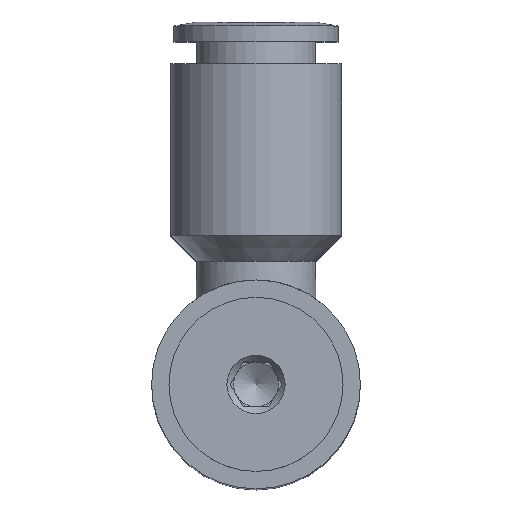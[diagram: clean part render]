
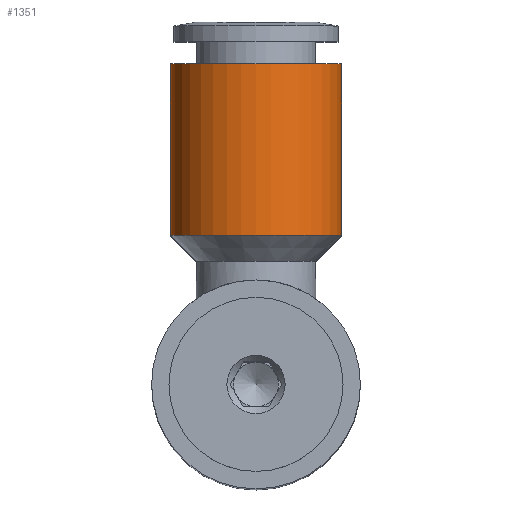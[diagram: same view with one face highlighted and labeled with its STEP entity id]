
A CAD part, top view. The second image highlights one B-rep face of the part: STEP entity #1351.
In plain terms, the highlighted cylindrical face has radius 5.75 mm (diameter 11.5 mm), a full revolution.
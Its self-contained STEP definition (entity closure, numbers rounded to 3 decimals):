
#1317=CARTESIAN_POINT('',(-5.75,10.,30.0));
#1318=VERTEX_POINT('',#1317);
#1319=CARTESIAN_POINT('',(0.0,10.,30.0));
#1320=DIRECTION('',(0.0,1.0,0.0));
#1321=DIRECTION('',(-1.0,0.0,0.0));
#1322=AXIS2_PLACEMENT_3D('',#1319,#1320,#1321);
#1323=CIRCLE('',#1322,5.75);
#1324=EDGE_CURVE('',#1318,#1318,#1323,.T.);
#1332=CARTESIAN_POINT('',(0.0,15.75,30.0));
#1333=DIRECTION('',(0.0,1.0,0.0));
#1334=DIRECTION('',(-1.0,0.0,0.0));
#1335=AXIS2_PLACEMENT_3D('',#1332,#1333,#1334);
#1336=CYLINDRICAL_SURFACE('',#1335,5.75);
#1337=CARTESIAN_POINT('',(-5.75,21.5,30.0));
#1338=VERTEX_POINT('',#1337);
#1339=CARTESIAN_POINT('',(0.0,21.5,30.0));
#1340=DIRECTION('',(0.0,1.0,0.0));
#1341=DIRECTION('',(-1.0,0.0,0.0));
#1342=AXIS2_PLACEMENT_3D('',#1339,#1340,#1341);
#1343=CIRCLE('',#1342,5.75);
#1344=EDGE_CURVE('',#1338,#1338,#1343,.T.);
#1345=ORIENTED_EDGE('',*,*,#1344,.F.);
#1346=EDGE_LOOP('',(#1345));
#1347=FACE_OUTER_BOUND('',#1346,.T.);
#1348=ORIENTED_EDGE('',*,*,#1324,.T.);
#1349=EDGE_LOOP('',(#1348));
#1350=FACE_BOUND('',#1349,.T.);
#1351=ADVANCED_FACE('',(#1347,#1350),#1336,.T.);
